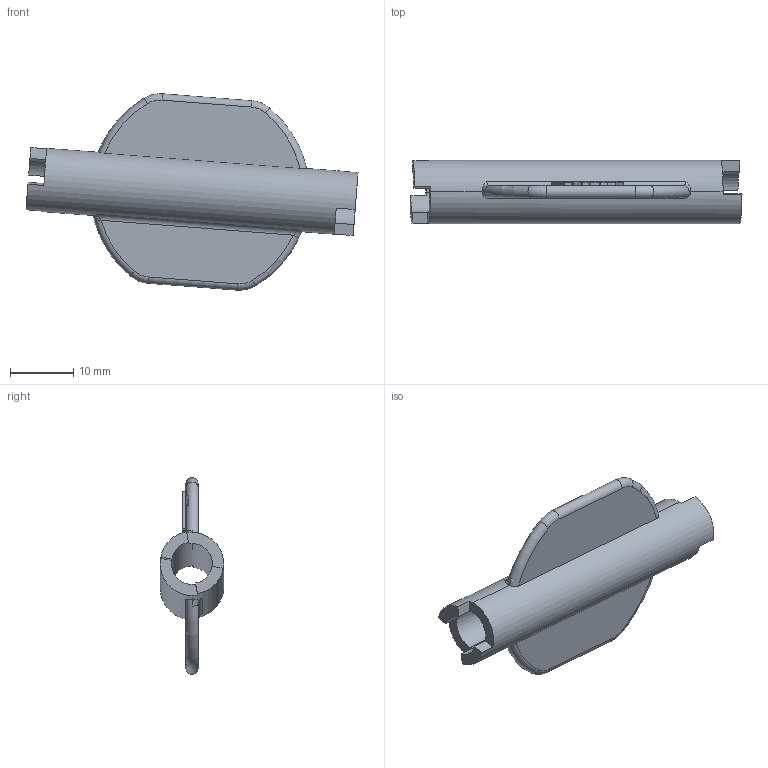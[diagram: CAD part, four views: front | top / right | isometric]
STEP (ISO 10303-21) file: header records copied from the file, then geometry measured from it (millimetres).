
FILE_DESCRIPTION((''),'2;1');
FILE_NAME('0000237130_PRT','2025-11-12T18:36:31',('Wyndorps'),(''),'CREO PARAMETRIC BY PTC INC, 2025010','CREO PARAMETRIC BY PTC INC, 2025010','');
FILE_SCHEMA(('CONFIG_CONTROL_DESIGN'));
Length unit declared in the file: millimetre
Products named in the file (1): 0000237130_PRT
Bounding box: 52.36 x 10 x 30.96 mm (x, y, z)
Volume: 3284.3 mm3; surface area: 3737.6 mm2
Topology: 1 solids, 1 shells, 73 faces, 196 edges, 128 vertices
Faces by surface type: plane 47, cylinder 12, torus 8, bspline 4, extrusion 2
Entity records: 2660 total; most frequent: CARTESIAN_POINT 797, ORIENTED_EDGE 392, DIRECTION 364, EDGE_CURVE 196, VERTEX_POINT 128, AXIS2_PLACEMENT_3D 123, VECTOR 118, LINE 116
